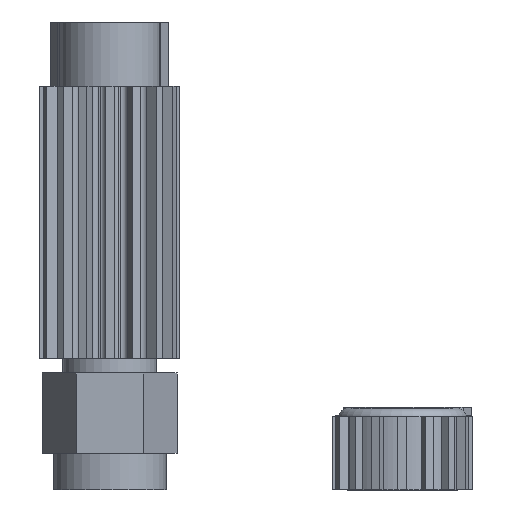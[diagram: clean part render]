
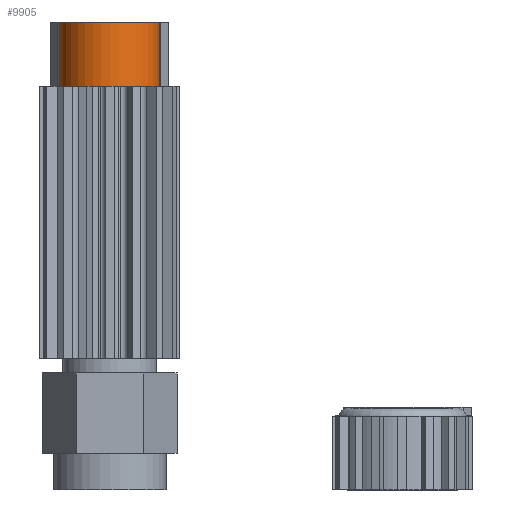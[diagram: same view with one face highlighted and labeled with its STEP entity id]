
A CAD part, front view. The second image highlights one B-rep face of the part: STEP entity #9905.
In plain terms, the highlighted cylindrical face has radius 3.425 mm (diameter 6.85 mm), a full revolution.
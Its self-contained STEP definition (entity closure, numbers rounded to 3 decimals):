
#706=FACE_OUTER_BOUND('',#1310,.T.);
#1310=EDGE_LOOP('',(#6821,#6822,#6823,#6824));
#1989=CIRCLE('',#10641,3.425);
#1990=CIRCLE('',#10642,3.425);
#2445=LINE('',#14834,#3389);
#3389=VECTOR('',#11773,3.425);
#4363=VERTEX_POINT('',#14831);
#4364=VERTEX_POINT('',#14833);
#5334=EDGE_CURVE('',#4363,#4363,#1989,.T.);
#5335=EDGE_CURVE('',#4363,#4364,#2445,.T.);
#5336=EDGE_CURVE('',#4364,#4364,#1990,.T.);
#6821=ORIENTED_EDGE('',*,*,#5334,.T.);
#6822=ORIENTED_EDGE('',*,*,#5335,.T.);
#6823=ORIENTED_EDGE('',*,*,#5336,.T.);
#6824=ORIENTED_EDGE('',*,*,#5335,.F.);
#9750=CYLINDRICAL_SURFACE('',#10640,3.425);
#9905=ADVANCED_FACE('',(#706),#9750,.T.);
#10640=AXIS2_PLACEMENT_3D('',#14830,#11769,#11770);
#10641=AXIS2_PLACEMENT_3D('',#14832,#11771,#11772);
#10642=AXIS2_PLACEMENT_3D('',#14835,#11774,#11775);
#11769=DIRECTION('center_axis',(0.,0.,-1.));
#11770=DIRECTION('ref_axis',(-1.,0.,0.));
#11771=DIRECTION('center_axis',(0.,0.,-1.));
#11772=DIRECTION('ref_axis',(-1.,0.,0.));
#11773=DIRECTION('',(0.,0.,-1.));
#11774=DIRECTION('center_axis',(0.,0.,1.));
#11775=DIRECTION('ref_axis',(-1.,0.,0.));
#14830=CARTESIAN_POINT('Origin',(0.,0.,23.));
#14831=CARTESIAN_POINT('',(3.425,0.,23.));
#14832=CARTESIAN_POINT('Origin',(0.,0.,23.));
#14833=CARTESIAN_POINT('',(3.425,0.,18.6));
#14834=CARTESIAN_POINT('',(3.425,0.,23.));
#14835=CARTESIAN_POINT('Origin',(0.,0.,18.6));
